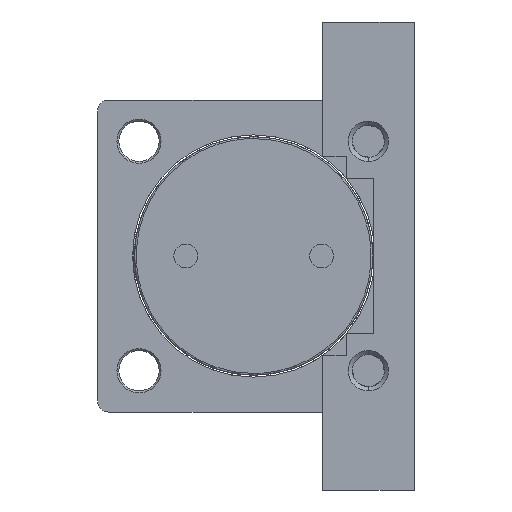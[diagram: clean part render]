
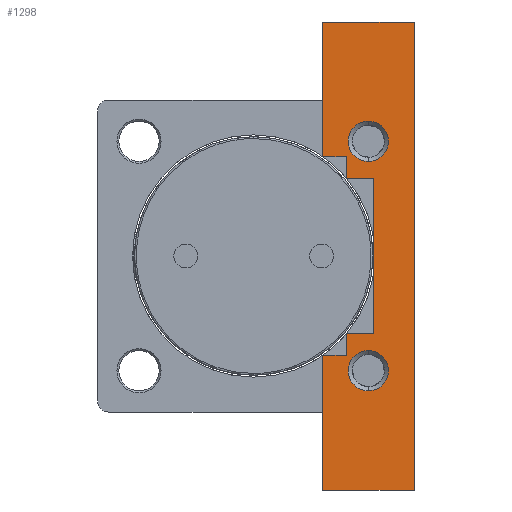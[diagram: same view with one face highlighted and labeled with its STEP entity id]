
A CAD part, left-side view. The second image highlights one B-rep face of the part: STEP entity #1298.
In plain terms, the highlighted planar face has unit normal (1, 0, 0).
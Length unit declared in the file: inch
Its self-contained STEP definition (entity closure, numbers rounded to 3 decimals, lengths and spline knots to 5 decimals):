
#195 = DIRECTION ( 'NONE',  ( 0., 0., 1. ) ) ;
#301 = CARTESIAN_POINT ( 'NONE',  ( -3.01181, -1.98819, 2.12598 ) ) ;
#421 = CARTESIAN_POINT ( 'NONE',  ( -3.01181, -3.44488, 5.01969 ) ) ;
#425 = ORIENTED_EDGE ( 'NONE', *, *, #5419, .T. ) ;
#647 = CARTESIAN_POINT ( 'NONE',  ( -3.01181, -3.44488, -5.01969 ) ) ;
#724 = DIRECTION ( 'NONE',  ( 0., -1., 0. ) ) ;
#741 = CARTESIAN_POINT ( 'NONE',  ( -3.01181, -3.44488, 5.01969 ) ) ;
#884 = EDGE_LOOP ( 'NONE', ( #5145, #425, #14062, #1333, #5046, #10389, #11469, #3758, #7563, #10105, #7920, #3658 ) ) ;
#960 = VECTOR ( 'NONE', #2515, 39.37008 ) ;
#1016 = EDGE_CURVE ( 'NONE', #13302, #14215, #1612, .T. ) ;
#1135 = CARTESIAN_POINT ( 'NONE',  ( -3.01181, -1.47638, 5.01969 ) ) ;
#1174 = CARTESIAN_POINT ( 'NONE',  ( -3.01181, -3.44488, -2.12598 ) ) ;
#1222 = VECTOR ( 'NONE', #11378, 39.37008 ) ;
#1298 = ADVANCED_FACE ( 'NONE', ( #5942, #5278, #5304 ), #8759, .T. ) ;
#1333 = ORIENTED_EDGE ( 'NONE', *, *, #1016, .F. ) ;
#1468 = VERTEX_POINT ( 'NONE', #14081 ) ;
#1514 = LINE ( 'NONE', #6375, #14772 ) ;
#1541 = EDGE_CURVE ( 'NONE', #9061, #1468, #14085, .T. ) ;
#1612 = LINE ( 'NONE', #12204, #1222 ) ;
#1888 = VERTEX_POINT ( 'NONE', #5371 ) ;
#1903 = AXIS2_PLACEMENT_3D ( 'NONE', #3543, #3537, #3520 ) ;
#2108 = VERTEX_POINT ( 'NONE', #4328 ) ;
#2410 = VERTEX_POINT ( 'NONE', #301 ) ;
#2499 = EDGE_LOOP ( 'NONE', ( #3560, #2813 ) ) ;
#2515 = DIRECTION ( 'NONE',  ( 0., 1., 0. ) ) ;
#2715 = CARTESIAN_POINT ( 'NONE',  ( -3.01181, -1.47638, 2.12598 ) ) ;
#2813 = ORIENTED_EDGE ( 'NONE', *, *, #5016, .T. ) ;
#2847 = VECTOR ( 'NONE', #14067, 39.37008 ) ;
#2967 = AXIS2_PLACEMENT_3D ( 'NONE', #11598, #4608, #12767 ) ;
#3230 = CARTESIAN_POINT ( 'NONE',  ( -3.01181, -1.98819, -2.12598 ) ) ;
#3520 = DIRECTION ( 'NONE',  ( 0., 0., 1. ) ) ;
#3537 = DIRECTION ( 'NONE',  ( -1., 0., 0. ) ) ;
#3543 = CARTESIAN_POINT ( 'NONE',  ( -3.01181, -2.46063, 2.46063 ) ) ;
#3560 = ORIENTED_EDGE ( 'NONE', *, *, #14854, .T. ) ;
#3658 = ORIENTED_EDGE ( 'NONE', *, *, #6257, .T. ) ;
#3758 = ORIENTED_EDGE ( 'NONE', *, *, #5977, .T. ) ;
#3764 = LINE ( 'NONE', #1135, #10886 ) ;
#3792 = CARTESIAN_POINT ( 'NONE',  ( -3.01181, -1.47638, 5.01969 ) ) ;
#3810 = LINE ( 'NONE', #14041, #2847 ) ;
#3821 = VERTEX_POINT ( 'NONE', #4134 ) ;
#3887 = DIRECTION ( 'NONE',  ( 0., 1., 0. ) ) ;
#3914 = CARTESIAN_POINT ( 'NONE',  ( -3.01181, -3.44488, 5.01969 ) ) ;
#3946 = EDGE_CURVE ( 'NONE', #1468, #9061, #8967, .T. ) ;
#4134 = CARTESIAN_POINT ( 'NONE',  ( -3.01181, -2.57874, 1.65354 ) ) ;
#4328 = CARTESIAN_POINT ( 'NONE',  ( -3.01181, -2.46063, -2.8937 ) ) ;
#4608 = DIRECTION ( 'NONE',  ( -1., 0., 0. ) ) ;
#4652 = LINE ( 'NONE', #7457, #11176 ) ;
#5016 = EDGE_CURVE ( 'NONE', #2108, #9624, #6650, .T. ) ;
#5032 = VERTEX_POINT ( 'NONE', #13438 ) ;
#5046 = ORIENTED_EDGE ( 'NONE', *, *, #5748, .T. ) ;
#5145 = ORIENTED_EDGE ( 'NONE', *, *, #5243, .T. ) ;
#5225 = VERTEX_POINT ( 'NONE', #12943 ) ;
#5243 = EDGE_CURVE ( 'NONE', #2410, #9337, #14254, .T. ) ;
#5278 = FACE_BOUND ( 'NONE', #2499, .T. ) ;
#5304 = FACE_OUTER_BOUND ( 'NONE', #884, .T. ) ;
#5345 = VECTOR ( 'NONE', #9648, 39.37008 ) ;
#5371 = CARTESIAN_POINT ( 'NONE',  ( -3.01181, -1.47638, -5.01969 ) ) ;
#5419 = EDGE_CURVE ( 'NONE', #9337, #5638, #1514, .T. ) ;
#5598 = EDGE_CURVE ( 'NONE', #5638, #14215, #10216, .T. ) ;
#5638 = VERTEX_POINT ( 'NONE', #3792 ) ;
#5670 = VERTEX_POINT ( 'NONE', #8890 ) ;
#5748 = EDGE_CURVE ( 'NONE', #13302, #1888, #6671, .T. ) ;
#5821 = EDGE_CURVE ( 'NONE', #1888, #5032, #3764, .T. ) ;
#5884 = EDGE_CURVE ( 'NONE', #5032, #14604, #11018, .T. ) ;
#5887 = VERTEX_POINT ( 'NONE', #9634 ) ;
#5942 = FACE_BOUND ( 'NONE', #12773, .T. ) ;
#5977 = EDGE_CURVE ( 'NONE', #14604, #5670, #4652, .T. ) ;
#6047 = EDGE_CURVE ( 'NONE', #5670, #5887, #3810, .T. ) ;
#6120 = EDGE_CURVE ( 'NONE', #5887, #3821, #13857, .T. ) ;
#6165 = DIRECTION ( 'NONE',  ( 0., -1., 0. ) ) ;
#6187 = EDGE_CURVE ( 'NONE', #3821, #5225, #10324, .T. ) ;
#6257 = EDGE_CURVE ( 'NONE', #5225, #2410, #10539, .T. ) ;
#6370 = DIRECTION ( 'NONE',  ( 0., 0., -1. ) ) ;
#6375 = CARTESIAN_POINT ( 'NONE',  ( -3.01181, -1.47638, 5.01969 ) ) ;
#6465 = DIRECTION ( 'NONE',  ( 0., 0., 1. ) ) ;
#6650 = CIRCLE ( 'NONE', #10664, 0.43307 ) ;
#6671 = LINE ( 'NONE', #10884, #14207 ) ;
#7457 = CARTESIAN_POINT ( 'NONE',  ( -3.01181, -1.98819, 5.01969 ) ) ;
#7563 = ORIENTED_EDGE ( 'NONE', *, *, #6047, .T. ) ;
#7587 = CARTESIAN_POINT ( 'NONE',  ( -3.01181, -2.46063, -2.46063 ) ) ;
#7920 = ORIENTED_EDGE ( 'NONE', *, *, #6187, .T. ) ;
#8005 = CARTESIAN_POINT ( 'NONE',  ( -3.01181, -2.46063, -2.02756 ) ) ;
#8359 = AXIS2_PLACEMENT_3D ( 'NONE', #13629, #13624, #13587 ) ;
#8496 = ORIENTED_EDGE ( 'NONE', *, *, #3946, .T. ) ;
#8597 = CIRCLE ( 'NONE', #2967, 0.43307 ) ;
#8633 = CARTESIAN_POINT ( 'NONE',  ( -3.01181, -1.98819, 5.01969 ) ) ;
#8759 = PLANE ( 'NONE',  #9463 ) ;
#8890 = CARTESIAN_POINT ( 'NONE',  ( -3.01181, -1.98819, -1.65354 ) ) ;
#8967 = CIRCLE ( 'NONE', #1903, 0.43307 ) ;
#9061 = VERTEX_POINT ( 'NONE', #11203 ) ;
#9179 = DIRECTION ( 'NONE',  ( 0., 0., 1. ) ) ;
#9337 = VERTEX_POINT ( 'NONE', #2715 ) ;
#9463 = AXIS2_PLACEMENT_3D ( 'NONE', #3914, #14384, #6370 ) ;
#9624 = VERTEX_POINT ( 'NONE', #8005 ) ;
#9634 = CARTESIAN_POINT ( 'NONE',  ( -3.01181, -2.57874, -1.65354 ) ) ;
#9648 = DIRECTION ( 'NONE',  ( 0., 0., 1. ) ) ;
#9808 = DIRECTION ( 'NONE',  ( 0., 1., 0. ) ) ;
#9829 = CARTESIAN_POINT ( 'NONE',  ( -3.01181, -3.44488, 1.65354 ) ) ;
#10105 = ORIENTED_EDGE ( 'NONE', *, *, #6120, .T. ) ;
#10216 = LINE ( 'NONE', #741, #10793 ) ;
#10306 = DIRECTION ( 'NONE',  ( 0., 0., 1. ) ) ;
#10324 = LINE ( 'NONE', #9829, #13891 ) ;
#10389 = ORIENTED_EDGE ( 'NONE', *, *, #5821, .T. ) ;
#10539 = LINE ( 'NONE', #8633, #5345 ) ;
#10647 = CARTESIAN_POINT ( 'NONE',  ( -3.01181, -2.57874, 5.01969 ) ) ;
#10664 = AXIS2_PLACEMENT_3D ( 'NONE', #7587, #14523, #6465 ) ;
#10793 = VECTOR ( 'NONE', #724, 39.37008 ) ;
#10884 = CARTESIAN_POINT ( 'NONE',  ( -3.01181, -3.44488, -5.01969 ) ) ;
#10886 = VECTOR ( 'NONE', #9179, 39.37008 ) ;
#10919 = DIRECTION ( 'NONE',  ( 0., 0., 1. ) ) ;
#10989 = VECTOR ( 'NONE', #6165, 39.37008 ) ;
#11018 = LINE ( 'NONE', #1174, #10989 ) ;
#11176 = VECTOR ( 'NONE', #10919, 39.37008 ) ;
#11203 = CARTESIAN_POINT ( 'NONE',  ( -3.01181, -2.46063, 2.8937 ) ) ;
#11378 = DIRECTION ( 'NONE',  ( 0., 0., 1. ) ) ;
#11469 = ORIENTED_EDGE ( 'NONE', *, *, #5884, .T. ) ;
#11486 = CARTESIAN_POINT ( 'NONE',  ( -3.01181, -3.44488, 2.12598 ) ) ;
#11598 = CARTESIAN_POINT ( 'NONE',  ( -3.01181, -2.46063, -2.46063 ) ) ;
#11676 = VECTOR ( 'NONE', #10306, 39.37008 ) ;
#12204 = CARTESIAN_POINT ( 'NONE',  ( -3.01181, -3.44488, 5.01969 ) ) ;
#12767 = DIRECTION ( 'NONE',  ( 0., 0., 1. ) ) ;
#12773 = EDGE_LOOP ( 'NONE', ( #14234, #8496 ) ) ;
#12943 = CARTESIAN_POINT ( 'NONE',  ( -3.01181, -1.98819, 1.65354 ) ) ;
#13302 = VERTEX_POINT ( 'NONE', #647 ) ;
#13438 = CARTESIAN_POINT ( 'NONE',  ( -3.01181, -1.47638, -2.12598 ) ) ;
#13587 = DIRECTION ( 'NONE',  ( 0., 0., 1. ) ) ;
#13624 = DIRECTION ( 'NONE',  ( -1., 0., 0. ) ) ;
#13629 = CARTESIAN_POINT ( 'NONE',  ( -3.01181, -2.46063, 2.46063 ) ) ;
#13857 = LINE ( 'NONE', #10647, #11676 ) ;
#13891 = VECTOR ( 'NONE', #9808, 39.37008 ) ;
#14041 = CARTESIAN_POINT ( 'NONE',  ( -3.01181, -3.44488, -1.65354 ) ) ;
#14062 = ORIENTED_EDGE ( 'NONE', *, *, #5598, .T. ) ;
#14067 = DIRECTION ( 'NONE',  ( 0., -1., 0. ) ) ;
#14081 = CARTESIAN_POINT ( 'NONE',  ( -3.01181, -2.46063, 2.02756 ) ) ;
#14085 = CIRCLE ( 'NONE', #8359, 0.43307 ) ;
#14207 = VECTOR ( 'NONE', #3887, 39.37008 ) ;
#14215 = VERTEX_POINT ( 'NONE', #421 ) ;
#14234 = ORIENTED_EDGE ( 'NONE', *, *, #1541, .T. ) ;
#14254 = LINE ( 'NONE', #11486, #960 ) ;
#14384 = DIRECTION ( 'NONE',  ( 1., 0., 0. ) ) ;
#14523 = DIRECTION ( 'NONE',  ( -1., 0., 0. ) ) ;
#14604 = VERTEX_POINT ( 'NONE', #3230 ) ;
#14772 = VECTOR ( 'NONE', #195, 39.37008 ) ;
#14854 = EDGE_CURVE ( 'NONE', #9624, #2108, #8597, .T. ) ;
